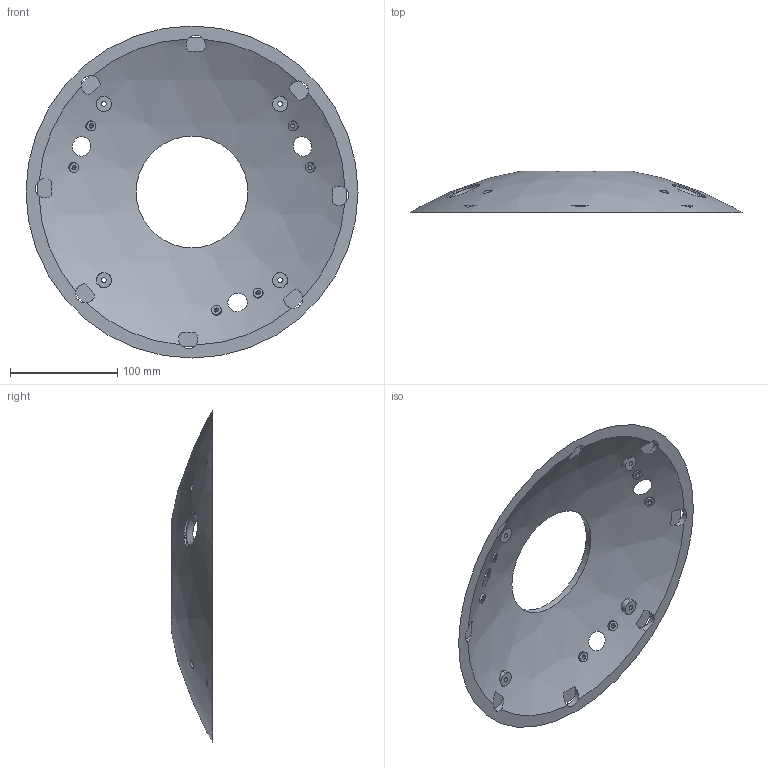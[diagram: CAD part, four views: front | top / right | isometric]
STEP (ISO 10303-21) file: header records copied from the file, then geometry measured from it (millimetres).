
FILE_DESCRIPTION(('Open CASCADE Model'),'2;1');
FILE_NAME('Open CASCADE Shape Model','2026-10-18T22:58:08',('Author'),( 'Open CASCADE'),'Open CASCADE STEP processor 7.9','Open CASCADE 7.9' ,'Unknown');
FILE_SCHEMA(('AUTOMOTIVE_DESIGN { 1 0 10303 214 1 1 1 1 }'));
Length unit declared in the file: millimetre
Products named in the file (1): Open CASCADE STEP translator 7.9 12
Bounding box: 308.97 x 38.44 x 308.97 mm (x, y, z)
Volume: 380202.2 mm3; surface area: 146959.3 mm2
Topology: 1 solids, 1 shells, 86 faces, 205 edges, 137 vertices
Faces by surface type: cylinder 45, plane 36, cone 3, sphere 2
Full cylindrical faces by diameter (mm): 4 x6, 4.5 x4, 8 x4, 9 x6, 33 x3, 104 x1
Entity records: 16028 total; most frequent: CARTESIAN_POINT 11975, DIRECTION 707, ORIENTED_EDGE 410, PCURVE 410, DEFINITIONAL_REPRESENTATION 410, CIRCLE 226, EDGE_CURVE 205, AXIS2_PLACEMENT_3D 203
